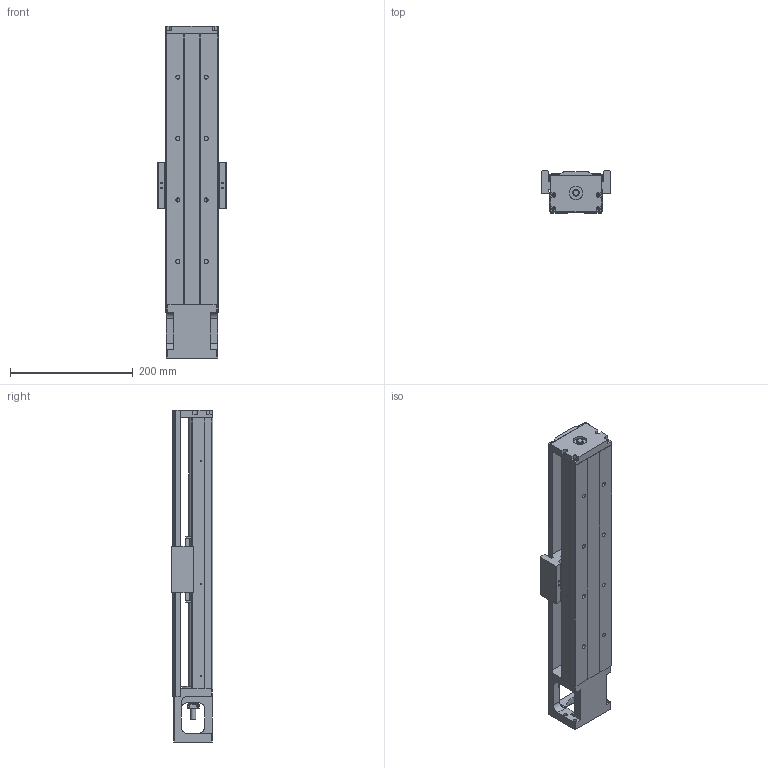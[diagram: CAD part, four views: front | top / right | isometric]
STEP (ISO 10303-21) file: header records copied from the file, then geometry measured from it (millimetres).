
FILE_DESCRIPTION(/* description */ (''),/* implementation_level */ '2;1');
FILE_NAME(/* name */ '46L-440C.stp',/* time_stamp */ '2019-09-05T13:22:47+08:00',/* author */ (''),/* organization */ (''),/* preprocessor_version */ 'ST-DEVELOPER v16',/* originating_system */ 'SIEMENS PLM Software NX 10.0',/* authorisation */ '');
FILE_SCHEMA (('AP203_CONFIGURATION_CONTROLLED_3D_DESIGN_OF_MECHANICAL_PARTS_AND_ASSEMBLIES_MIM_LF { 1 0 10303 403 2 1 2}'));
Length unit declared in the file: millimetre
Products named in the file (1): 0154B620C536ce65
Bounding box: 112 x 68 x 540 mm (x, y, z)
Volume: 1557619.6 mm3; surface area: 384179 mm2
Topology: 7 solids, 15 shells, 691 faces, 1809 edges, 1192 vertices
Faces by surface type: plane 338, cylinder 249, cone 55, bspline 41, torus 8
Full cylindrical faces by diameter (mm): 2.11 x4, 2.15 x6, 2.42 x8, 2.5 x4, 3 x6, 3.2 x4, 3.3 x12, 3.4 x8, 4 x4, 4.2 x4, 4.5 x8, 5 x14, 6 x8, 6.35 x2, 6.6 x8, 8 x1, 9.6 x1, 10 x3, 11 x8, 12 x1, 14.95 x2, 15 x1, 16 x2, 22 x3, 27.5 x1, 44 x1, 50 x1
Entity records: 28787 total; most frequent: CARTESIAN_POINT 12929, ORIENTED_EDGE 3128, DIRECTION 3095, EDGE_CURVE 1564, AXIS2_PLACEMENT_3D 1129, VERTEX_POINT 1121, EDGE_LOOP 971, LINE 837
